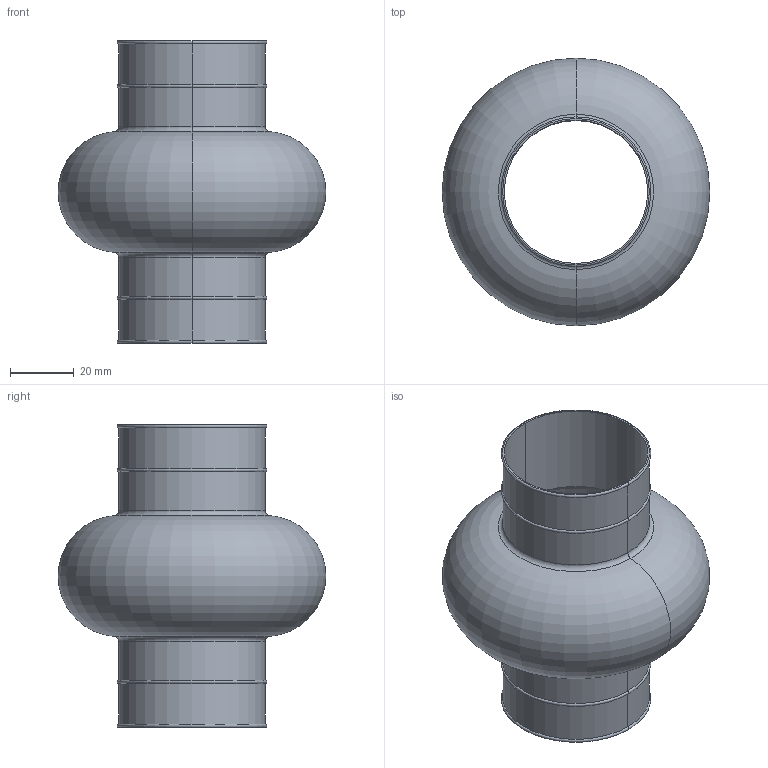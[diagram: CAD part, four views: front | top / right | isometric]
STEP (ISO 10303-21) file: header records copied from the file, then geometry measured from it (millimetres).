
FILE_DESCRIPTION (( 'STEP AP203' ), '1' );
FILE_NAME ('65280.W0045.step', '2018-06-20T18:12:39', ( '' ), ( '' ), 'SwSTEP 2.0', 'SolidWorks 2017', '' );
FILE_SCHEMA (( 'CONFIG_CONTROL_DESIGN' ));
Length unit declared in the file: millimetre
Products named in the file (1): 65280.W0045
Bounding box: 84 x 84 x 95 mm (x, y, z)
Volume: 10966 mm3; surface area: 42760.9 mm2
Topology: 1 solids, 1 shells, 30 faces, 60 edges, 32 vertices
Faces by surface type: torus 16, cylinder 12, plane 2
Entity records: 861 total; most frequent: DIRECTION 170, CARTESIAN_POINT 123, ORIENTED_EDGE 120, AXIS2_PLACEMENT_3D 79, EDGE_CURVE 60, CIRCLE 48, EDGE_LOOP 32, VERTEX_POINT 32
